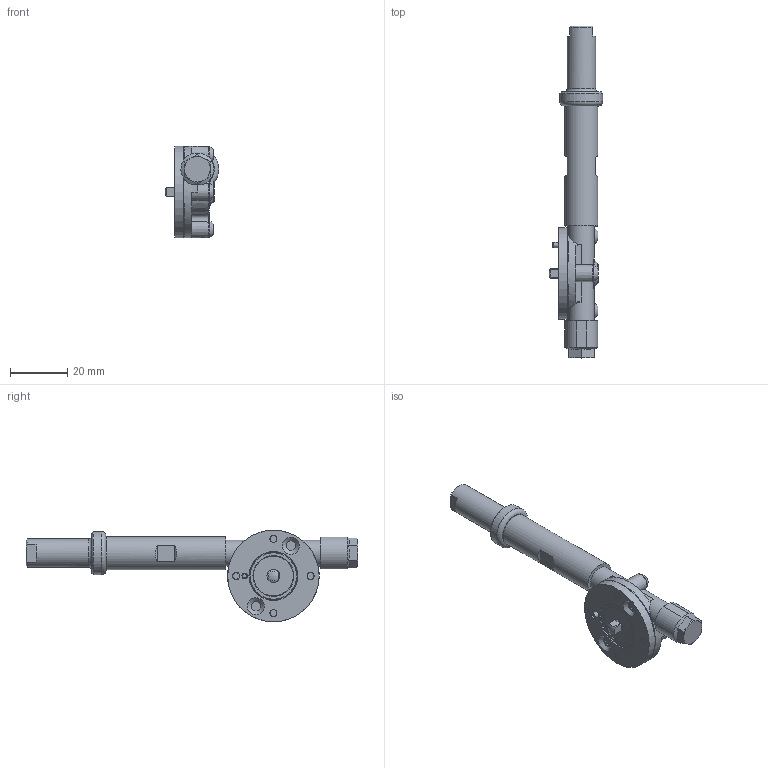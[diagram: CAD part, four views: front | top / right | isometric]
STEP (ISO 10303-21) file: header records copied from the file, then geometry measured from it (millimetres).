
FILE_DESCRIPTION(/* description */ (''),/* implementation_level */ '2;1');
FILE_NAME(/* name */ 'C:\_Vault\Workspace\Projektordner\03-Sensoren\02-STS\11-PSENmlock2\03-Kundendaten\2029043_A_PSEN ml auxiliary release hd1.stp',/* time_stamp */ '2020-04-17T13:42:48+02:00',/* author */ ('jebe'),/* organization */ (''),/* preprocessor_version */ 'ST-DEVELOPER v18',/* originating_system */ 'Autodesk Inventor 2020',/* authorisation */ '');
FILE_SCHEMA (('AUTOMOTIVE_DESIGN { 1 0 10303 214 3 1 1 }'));
Length unit declared in the file: millimetre
Products named in the file (5): 2029043; Antriebseinheit_PSEN_ml_escape_release; Adapterscheibe_PSEN_ml_escape_release; H305327; H306581
Assembly tree (7 placements, depth 2):
  2029043
    Antriebseinheit_PSEN_ml_escape_release
    Adapterscheibe_PSEN_ml_escape_release
    H305327  x4
    H306581
Bounding box: 18.75 x 116.2 x 32 mm (x, y, z)
Volume: 16067.6 mm3; surface area: 10279.5 mm2
Topology: 7 solids, 7 shells, 455 faces, 1138 edges, 713 vertices
Faces by surface type: plane 151, cylinder 116, torus 68, cone 67, bspline 40, sphere 13
Full cylindrical faces by diameter (mm): 2.459 x4, 3 x4, 3.4 x2, 4.4 x1, 4.5 x1, 4.917 x1, 6 x2, 7 x1, 9 x2, 10 x1, 11.5 x1, 14 x1, 15 x1, 16.7 x1, 32 x1
Entity records: 13456 total; most frequent: CARTESIAN_POINT 4310, DIRECTION 1942, ORIENTED_EDGE 1864, EDGE_CURVE 932, AXIS2_PLACEMENT_3D 814, VERTEX_POINT 581, CIRCLE 450, EDGE_LOOP 421
